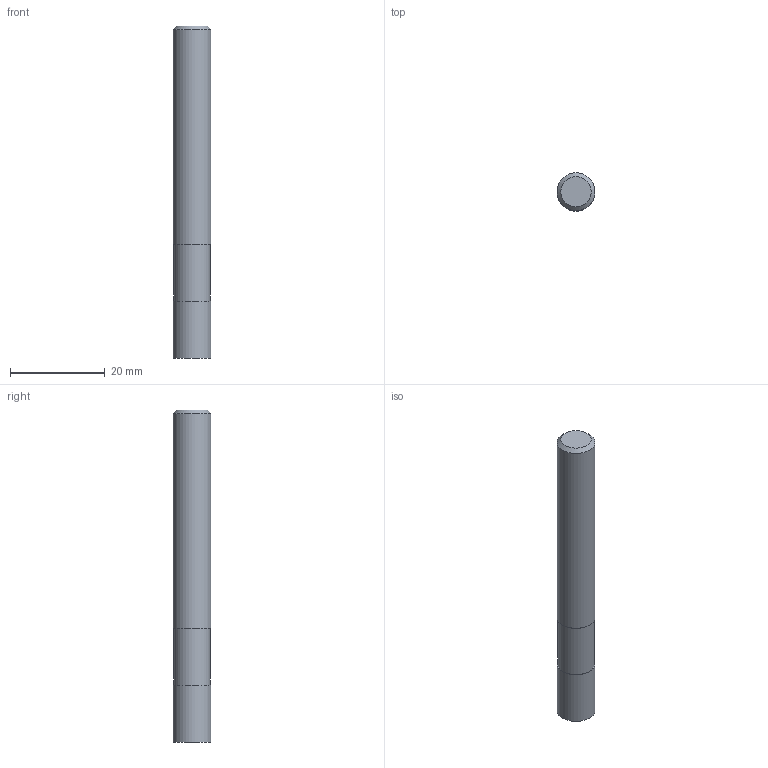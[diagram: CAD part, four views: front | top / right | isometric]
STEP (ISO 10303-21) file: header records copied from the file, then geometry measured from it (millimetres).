
FILE_DESCRIPTION((''),'2;1');
FILE_NAME('C:\Users\nsx150\AppData\Local\Temp\Mastercam 2021\EUJSUNXURU\TEMP.step','2021-04-22T10:35:38',(''),(''),'STEP Write','Mastercam 2021 ... CNC Software, Inc.','');
FILE_SCHEMA(('AUTOMOTIVE_DESIGN'));
Length unit declared in the file: millimetre
Products named in the file (1): None
Bounding box: 8 x 8 x 70 mm (x, y, z)
Volume: 3481.3 mm3; surface area: 1940.2 mm2
Topology: 2 solids, 2 shells, 9 faces, 11 edges, 7 vertices
Faces by surface type: plane 5, cylinder 3, cone 1
Full cylindrical faces by diameter (mm): 7.8 x1, 8 x2
Entity records: 211 total; most frequent: DIRECTION 36, CARTESIAN_POINT 25, AXIS2_PLACEMENT_3D 18, ORIENTED_EDGE 14, EDGE_LOOP 14, STYLED_ITEM 12, ADVANCED_FACE 9, FACE_BOUND 8
